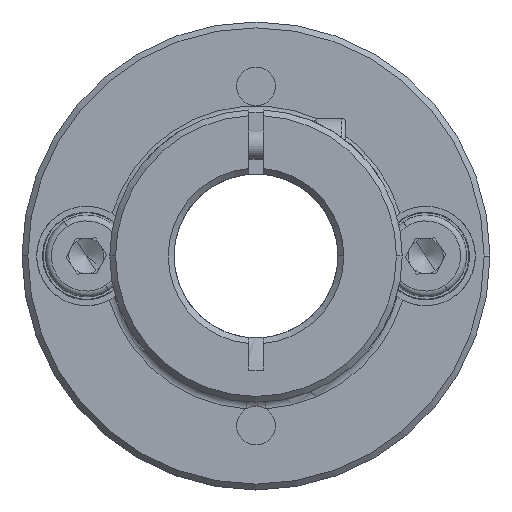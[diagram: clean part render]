
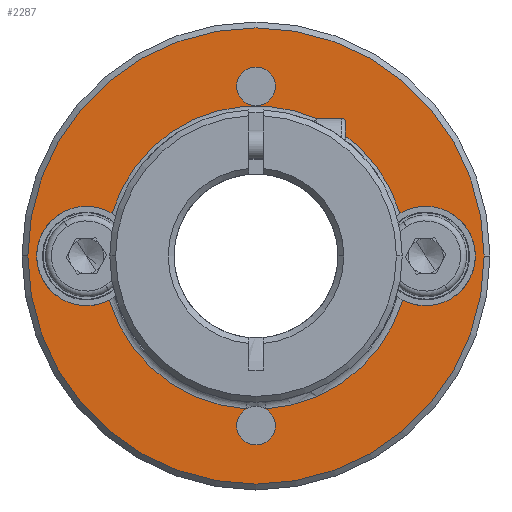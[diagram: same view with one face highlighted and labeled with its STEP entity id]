
A CAD part, front view. The second image highlights one B-rep face of the part: STEP entity #2287.
In plain terms, the highlighted planar face has unit normal (0, -1, 0).
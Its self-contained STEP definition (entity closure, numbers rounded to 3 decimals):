
#123 = DIRECTION ( 'NONE',  ( 0., 1., 0. ) ) ;
#137 = CARTESIAN_POINT ( 'NONE',  ( -11.757, -15.198, 25.5 ) ) ;
#288 = DIRECTION ( 'NONE',  ( 1., 0., 0. ) ) ;
#426 = CARTESIAN_POINT ( 'NONE',  ( 0.787, -15.198, 36.226 ) ) ;
#475 = AXIS2_PLACEMENT_3D ( 'NONE', #3099, #10883, #10025 ) ;
#499 = EDGE_CURVE ( 'NONE', #2131, #1017, #7756, .T. ) ;
#715 = VERTEX_POINT ( 'NONE', #1918 ) ;
#739 = CARTESIAN_POINT ( 'NONE',  ( -10.107, -15.198, 54.5 ) ) ;
#885 = DIRECTION ( 'NONE',  ( 0., 1., 0. ) ) ;
#923 = DIRECTION ( 'NONE',  ( 0., -1., 0. ) ) ;
#947 = EDGE_CURVE ( 'NONE', #2842, #6733, #3605, .T. ) ;
#958 = DIRECTION ( 'NONE',  ( 1., 0., 0. ) ) ;
#1017 = VERTEX_POINT ( 'NONE', #2772 ) ;
#1126 = DIRECTION ( 'NONE',  ( 0., 1., 0. ) ) ;
#1234 = EDGE_CURVE ( 'NONE', #5087, #2842, #2250, .T. ) ;
#1290 = CARTESIAN_POINT ( 'NONE',  ( 2.743, -15.198, 40. ) ) ;
#1409 = DIRECTION ( 'NONE',  ( 1., 0., 0. ) ) ;
#1424 = ORIENTED_EDGE ( 'NONE', *, *, #1234, .T. ) ;
#1476 = DIRECTION ( 'NONE',  ( 1., 0., 0. ) ) ;
#1526 = DIRECTION ( 'NONE',  ( 1., 0., 0. ) ) ;
#1538 = AXIS2_PLACEMENT_3D ( 'NONE', #5716, #885, #4813 ) ;
#1546 = DIRECTION ( 'NONE',  ( 1., 0., 0. ) ) ;
#1695 = VERTEX_POINT ( 'NONE', #1915 ) ;
#1728 = ORIENTED_EDGE ( 'NONE', *, *, #499, .T. ) ;
#1767 = AXIS2_PLACEMENT_3D ( 'NONE', #8226, #2516, #8390 ) ;
#1887 = EDGE_LOOP ( 'NONE', ( #12098, #5331 ) ) ;
#1915 = CARTESIAN_POINT ( 'NONE',  ( 7.743, -15.198, 40. ) ) ;
#1918 = CARTESIAN_POINT ( 'NONE',  ( -31.257, -15.198, 40. ) ) ;
#2131 = VERTEX_POINT ( 'NONE', #2543 ) ;
#2143 = AXIS2_PLACEMENT_3D ( 'NONE', #1290, #6217, #3301 ) ;
#2182 = AXIS2_PLACEMENT_3D ( 'NONE', #137, #1126, #958 ) ;
#2250 = CIRCLE ( 'NONE', #2182, 1.65 ) ;
#2287 = ADVANCED_FACE ( 'NONE', ( #8171, #7100, #2827 ), #7520, .T. ) ;
#2355 = EDGE_CURVE ( 'NONE', #3542, #9435, #11534, .T. ) ;
#2490 = CARTESIAN_POINT ( 'NONE',  ( -13.407, -15.198, 54.5 ) ) ;
#2516 = DIRECTION ( 'NONE',  ( 0., 1., 0. ) ) ;
#2543 = CARTESIAN_POINT ( 'NONE',  ( -12.587, -15.198, 26.926 ) ) ;
#2688 = VERTEX_POINT ( 'NONE', #7511 ) ;
#2772 = CARTESIAN_POINT ( 'NONE',  ( -24.302, -15.198, 36.226 ) ) ;
#2827 = FACE_BOUND ( 'NONE', #11616, .T. ) ;
#2835 = CARTESIAN_POINT ( 'NONE',  ( -13.407, -15.198, 25.5 ) ) ;
#2842 = VERTEX_POINT ( 'NONE', #7762 ) ;
#2902 = DIRECTION ( 'NONE',  ( 1., 0., 0. ) ) ;
#3099 = CARTESIAN_POINT ( 'NONE',  ( 2.743, -15.198, 40. ) ) ;
#3207 = CIRCLE ( 'NONE', #9895, 4.25 ) ;
#3301 = DIRECTION ( 'NONE',  ( 1., 0., 0. ) ) ;
#3354 = EDGE_CURVE ( 'NONE', #6733, #2131, #8596, .T. ) ;
#3542 = VERTEX_POINT ( 'NONE', #9080 ) ;
#3605 = CIRCLE ( 'NONE', #9121, 1.65 ) ;
#3608 = EDGE_CURVE ( 'NONE', #5140, #5087, #7685, .T. ) ;
#4222 = CARTESIAN_POINT ( 'NONE',  ( 0.545, -15.198, 43.638 ) ) ;
#4383 = DIRECTION ( 'NONE',  ( 0., 1., 0. ) ) ;
#4652 = CARTESIAN_POINT ( 'NONE',  ( -11.757, -15.198, 40. ) ) ;
#4661 = CIRCLE ( 'NONE', #475, 4.25 ) ;
#4813 = DIRECTION ( 'NONE',  ( 1., 0., 0. ) ) ;
#5087 = VERTEX_POINT ( 'NONE', #9142 ) ;
#5140 = VERTEX_POINT ( 'NONE', #426 ) ;
#5244 = VERTEX_POINT ( 'NONE', #2490 ) ;
#5255 = EDGE_LOOP ( 'NONE', ( #10915, #5519, #9422, #5963, #9215, #6009, #1424, #7257, #11344, #1728 ) ) ;
#5309 = DIRECTION ( 'NONE',  ( 0., -1., 0. ) ) ;
#5331 = ORIENTED_EDGE ( 'NONE', *, *, #10040, .T. ) ;
#5338 = CARTESIAN_POINT ( 'NONE',  ( -11.757, -15.198, 40. ) ) ;
#5519 = ORIENTED_EDGE ( 'NONE', *, *, #7035, .T. ) ;
#5584 = DIRECTION ( 'NONE',  ( 0., 1., 0. ) ) ;
#5690 = AXIS2_PLACEMENT_3D ( 'NONE', #9014, #9097, #288 ) ;
#5716 = CARTESIAN_POINT ( 'NONE',  ( -11.757, -15.198, 40. ) ) ;
#5746 = DIRECTION ( 'NONE',  ( 1., 0., 0. ) ) ;
#5781 = CIRCLE ( 'NONE', #2143, 4.25 ) ;
#5825 = AXIS2_PLACEMENT_3D ( 'NONE', #4652, #10516, #11618 ) ;
#5963 = ORIENTED_EDGE ( 'NONE', *, *, #7915, .T. ) ;
#6009 = ORIENTED_EDGE ( 'NONE', *, *, #3608, .T. ) ;
#6217 = DIRECTION ( 'NONE',  ( 0., 1., 0. ) ) ;
#6235 = CIRCLE ( 'NONE', #5825, 19.5 ) ;
#6269 = DIRECTION ( 'NONE',  ( 0., 1., 0. ) ) ;
#6271 = AXIS2_PLACEMENT_3D ( 'NONE', #5338, #12051, #10215 ) ;
#6426 = EDGE_CURVE ( 'NONE', #7590, #5244, #11445, .T. ) ;
#6575 = CARTESIAN_POINT ( 'NONE',  ( -26.257, -15.198, 40. ) ) ;
#6635 = EDGE_CURVE ( 'NONE', #715, #1695, #6235, .T. ) ;
#6733 = VERTEX_POINT ( 'NONE', #2835 ) ;
#7035 = EDGE_CURVE ( 'NONE', #2688, #3542, #9109, .T. ) ;
#7100 = FACE_BOUND ( 'NONE', #5255, .T. ) ;
#7167 = CARTESIAN_POINT ( 'NONE',  ( 6.993, -15.198, 40. ) ) ;
#7170 = ORIENTED_EDGE ( 'NONE', *, *, #6426, .T. ) ;
#7208 = CARTESIAN_POINT ( 'NONE',  ( -11.757, -15.198, 25.5 ) ) ;
#7257 = ORIENTED_EDGE ( 'NONE', *, *, #947, .T. ) ;
#7511 = CARTESIAN_POINT ( 'NONE',  ( -30.507, -15.198, 40. ) ) ;
#7520 = PLANE ( 'NONE',  #10045 ) ;
#7590 = VERTEX_POINT ( 'NONE', #739 ) ;
#7672 = CIRCLE ( 'NONE', #5690, 1.65 ) ;
#7685 = CIRCLE ( 'NONE', #6271, 13.1 ) ;
#7746 = CARTESIAN_POINT ( 'NONE',  ( -11.757, -15.198, 25.5 ) ) ;
#7756 = CIRCLE ( 'NONE', #1767, 13.1 ) ;
#7762 = CARTESIAN_POINT ( 'NONE',  ( -10.107, -15.198, 25.5 ) ) ;
#7870 = AXIS2_PLACEMENT_3D ( 'NONE', #8311, #9195, #1526 ) ;
#7907 = AXIS2_PLACEMENT_3D ( 'NONE', #11987, #5309, #1409 ) ;
#7915 = EDGE_CURVE ( 'NONE', #9435, #10885, #4661, .T. ) ;
#7960 = AXIS2_PLACEMENT_3D ( 'NONE', #10164, #4383, #1476 ) ;
#8171 = FACE_OUTER_BOUND ( 'NONE', #1887, .T. ) ;
#8226 = CARTESIAN_POINT ( 'NONE',  ( -11.757, -15.198, 40. ) ) ;
#8311 = CARTESIAN_POINT ( 'NONE',  ( -11.757, -15.198, 54.5 ) ) ;
#8390 = DIRECTION ( 'NONE',  ( 1., 0., 0. ) ) ;
#8596 = CIRCLE ( 'NONE', #10369, 1.65 ) ;
#8748 = CIRCLE ( 'NONE', #7907, 19.5 ) ;
#9014 = CARTESIAN_POINT ( 'NONE',  ( -11.757, -15.198, 54.5 ) ) ;
#9080 = CARTESIAN_POINT ( 'NONE',  ( -24.06, -15.198, 43.638 ) ) ;
#9097 = DIRECTION ( 'NONE',  ( 0., 1., 0. ) ) ;
#9109 = CIRCLE ( 'NONE', #7960, 4.25 ) ;
#9121 = AXIS2_PLACEMENT_3D ( 'NONE', #7208, #6269, #5746 ) ;
#9142 = CARTESIAN_POINT ( 'NONE',  ( -10.928, -15.198, 26.926 ) ) ;
#9195 = DIRECTION ( 'NONE',  ( 0., 1., 0. ) ) ;
#9215 = ORIENTED_EDGE ( 'NONE', *, *, #11660, .T. ) ;
#9422 = ORIENTED_EDGE ( 'NONE', *, *, #2355, .T. ) ;
#9431 = EDGE_CURVE ( 'NONE', #5244, #7590, #7672, .T. ) ;
#9435 = VERTEX_POINT ( 'NONE', #4222 ) ;
#9895 = AXIS2_PLACEMENT_3D ( 'NONE', #6575, #5584, #1546 ) ;
#10025 = DIRECTION ( 'NONE',  ( 1., 0., 0. ) ) ;
#10040 = EDGE_CURVE ( 'NONE', #1695, #715, #8748, .T. ) ;
#10045 = AXIS2_PLACEMENT_3D ( 'NONE', #12478, #923, #2902 ) ;
#10164 = CARTESIAN_POINT ( 'NONE',  ( -26.257, -15.198, 40. ) ) ;
#10215 = DIRECTION ( 'NONE',  ( 1., 0., 0. ) ) ;
#10369 = AXIS2_PLACEMENT_3D ( 'NONE', #7746, #123, #12628 ) ;
#10516 = DIRECTION ( 'NONE',  ( 0., -1., 0. ) ) ;
#10883 = DIRECTION ( 'NONE',  ( 0., 1., 0. ) ) ;
#10885 = VERTEX_POINT ( 'NONE', #7167 ) ;
#10915 = ORIENTED_EDGE ( 'NONE', *, *, #11115, .T. ) ;
#11115 = EDGE_CURVE ( 'NONE', #1017, #2688, #3207, .T. ) ;
#11344 = ORIENTED_EDGE ( 'NONE', *, *, #3354, .T. ) ;
#11445 = CIRCLE ( 'NONE', #7870, 1.65 ) ;
#11534 = CIRCLE ( 'NONE', #1538, 12.829 ) ;
#11616 = EDGE_LOOP ( 'NONE', ( #11917, #7170 ) ) ;
#11618 = DIRECTION ( 'NONE',  ( 1., 0., 0. ) ) ;
#11660 = EDGE_CURVE ( 'NONE', #10885, #5140, #5781, .T. ) ;
#11917 = ORIENTED_EDGE ( 'NONE', *, *, #9431, .T. ) ;
#11987 = CARTESIAN_POINT ( 'NONE',  ( -11.757, -15.198, 40. ) ) ;
#12051 = DIRECTION ( 'NONE',  ( 0., 1., 0. ) ) ;
#12098 = ORIENTED_EDGE ( 'NONE', *, *, #6635, .T. ) ;
#12478 = CARTESIAN_POINT ( 'NONE',  ( -11.757, -15.198, 40. ) ) ;
#12628 = DIRECTION ( 'NONE',  ( 1., 0., 0. ) ) ;
